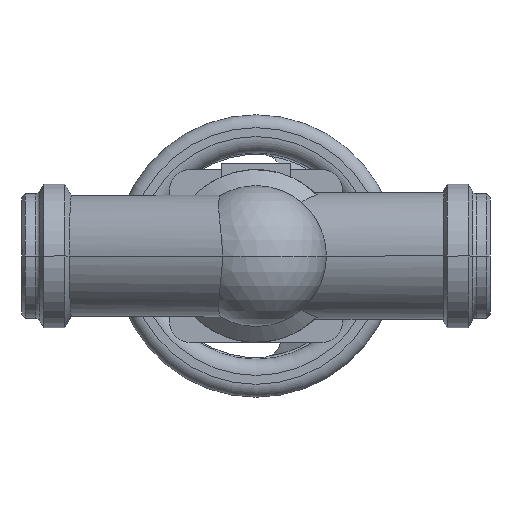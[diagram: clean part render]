
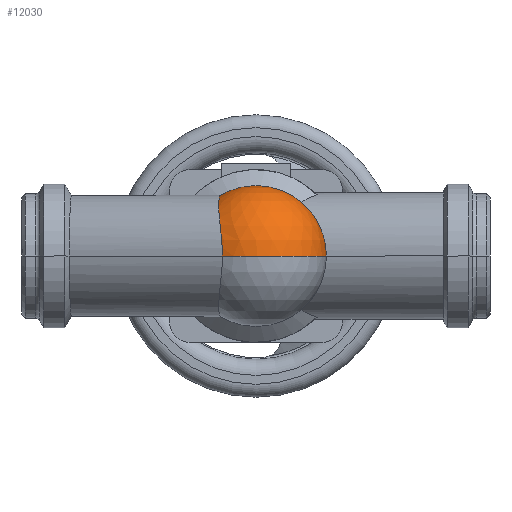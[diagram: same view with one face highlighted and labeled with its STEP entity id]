
A CAD part, front view. The second image highlights one B-rep face of the part: STEP entity #12030.
In plain terms, the highlighted spherical face has radius 43.5 mm.
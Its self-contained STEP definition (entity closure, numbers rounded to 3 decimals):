
#100=CARTESIAN_POINT('',(124.212,-74.211,
0.));
#110=VERTEX_POINT('',#100);
#1720=CARTESIAN_POINT('',(122.912,-36.,37.475));
#1730=VERTEX_POINT('',#1720);
#1760=CARTESIAN_POINT('',(122.912,-36.,-37.475));
#1770=CARTESIAN_POINT('',(122.862,-36.558,
-37.446));
#1780=CARTESIAN_POINT('',(122.814,-37.12,
-37.404));
#1790=CARTESIAN_POINT('',(122.66,-38.954,
-37.23));
#1800=CARTESIAN_POINT('',(122.56,-40.235,
-37.047));
#1810=CARTESIAN_POINT('',(122.379,-42.792,
-36.553));
#1820=CARTESIAN_POINT('',(122.298,-44.069,
-36.242));
#1830=CARTESIAN_POINT('',(122.159,-46.597,
-35.496));
#1840=CARTESIAN_POINT('',(122.1,-47.848,
-35.06));
#1850=CARTESIAN_POINT('',(122.008,-50.302,
-34.07));
#1860=CARTESIAN_POINT('',(121.974,-51.507,
-33.516));
#1870=CARTESIAN_POINT('',(121.934,-53.851,
-32.3));
#1880=CARTESIAN_POINT('',(121.927,-54.99,
-31.638));
#1890=CARTESIAN_POINT('',(121.94,-57.186,
-30.221));
#1900=CARTESIAN_POINT('',(121.96,-58.243,
-29.467));
#1910=CARTESIAN_POINT('',(122.025,-60.259,
-27.884));
#1920=CARTESIAN_POINT('',(122.07,-61.218,
-27.056));
#1930=CARTESIAN_POINT('',(122.18,-62.991,
-25.385));
#1940=CARTESIAN_POINT('',(122.245,-63.839,
-24.515));
#1950=CARTESIAN_POINT('',(122.399,-65.471,
-22.681));
#1960=CARTESIAN_POINT('',(122.488,-66.255,
-21.718));
#1970=CARTESIAN_POINT('',(122.684,-67.738,
-19.71));
#1980=CARTESIAN_POINT('',(122.792,-68.438,
-18.666));
#1990=CARTESIAN_POINT('',(123.02,-69.735,
-16.513));
#2000=CARTESIAN_POINT('',(123.14,-70.332,
-15.403));
#2010=CARTESIAN_POINT('',(123.38,-71.41,
-13.135));
#2020=CARTESIAN_POINT('',(123.501,-71.891,
-11.975));
#2030=CARTESIAN_POINT('',(123.728,-72.725,
-9.622));
#2040=CARTESIAN_POINT('',(123.834,-73.077,
-8.429));
#2050=CARTESIAN_POINT('',(124.014,-73.644,
-6.026));
#2060=CARTESIAN_POINT('',(124.087,-73.857,
-4.816));
#2070=CARTESIAN_POINT('',(124.186,-74.141,
-2.4));
#2080=CARTESIAN_POINT('',(124.212,-74.211,
-1.194));
#2090=CARTESIAN_POINT('',(124.212,-74.211,
0.));
#2100=CARTESIAN_POINT('',(124.212,-74.211,
1.194));
#2110=CARTESIAN_POINT('',(124.186,-74.141,
2.4));
#2120=CARTESIAN_POINT('',(124.087,-73.857,
4.816));
#2130=CARTESIAN_POINT('',(124.014,-73.644,
6.026));
#2140=CARTESIAN_POINT('',(123.834,-73.077,
8.429));
#2150=CARTESIAN_POINT('',(123.728,-72.725,
9.622));
#2160=CARTESIAN_POINT('',(123.501,-71.891,
11.975));
#2170=CARTESIAN_POINT('',(123.38,-71.41,
13.135));
#2180=CARTESIAN_POINT('',(123.14,-70.332,
15.403));
#2190=CARTESIAN_POINT('',(123.02,-69.735,
16.513));
#2200=CARTESIAN_POINT('',(122.792,-68.438,
18.666));
#2210=CARTESIAN_POINT('',(122.684,-67.738,
19.71));
#2220=CARTESIAN_POINT('',(122.488,-66.255,
21.718));
#2230=CARTESIAN_POINT('',(122.399,-65.471,
22.681));
#2240=CARTESIAN_POINT('',(122.245,-63.839,
24.515));
#2250=CARTESIAN_POINT('',(122.18,-62.991,
25.385));
#2260=CARTESIAN_POINT('',(122.07,-61.218,
27.056));
#2270=CARTESIAN_POINT('',(122.025,-60.259,
27.884));
#2280=CARTESIAN_POINT('',(121.96,-58.243,
29.467));
#2290=CARTESIAN_POINT('',(121.94,-57.186,
30.221));
#2300=CARTESIAN_POINT('',(121.927,-54.99,
31.638));
#2310=CARTESIAN_POINT('',(121.934,-53.851,
32.3));
#2320=CARTESIAN_POINT('',(121.974,-51.507,
33.516));
#2330=CARTESIAN_POINT('',(122.008,-50.302,
34.07));
#2340=CARTESIAN_POINT('',(122.1,-47.848,
35.06));
#2350=CARTESIAN_POINT('',(122.159,-46.597,
35.496));
#2360=CARTESIAN_POINT('',(122.298,-44.069,
36.242));
#2370=CARTESIAN_POINT('',(122.379,-42.792,
36.553));
#2380=CARTESIAN_POINT('',(122.56,-40.235,
37.047));
#2390=CARTESIAN_POINT('',(122.66,-38.954,
37.23));
#2400=CARTESIAN_POINT('',(122.814,-37.12,
37.404));
#2410=CARTESIAN_POINT('',(122.862,-36.558,
37.446));
#2420=CARTESIAN_POINT('',(122.912,-36.,37.475));
#2430=B_SPLINE_CURVE_WITH_KNOTS('',3,(#1760,#1770,#1780,#1790,#1800,
#1810,#1820,#1830,#1840,#1850,#1860,#1870,#1880,#1890,#1900,#1910,#1920,
#1930,#1940,#1950,#1960,#1970,#1980,#1990,#2000,#2010,#2020,#2030,#2040,
#2050,#2060,#2070,#2080,#2090,#2100,#2110,#2120,#2130,#2140,#2150,#2160,
#2170,#2180,#2190,#2200,#2210,#2220,#2230,#2240,#2250,#2260,#2270,#2280,
#2290,#2300,#2310,#2320,#2330,#2340,#2350,#2360,#2370,#2380,#2390,#2400,
#2410,#2420),.UNSPECIFIED.,.F.,.F.,(4,2,2,2,2,2,2,2,2,2,2,2,2,2,2,2,3,2,
2,2,2,2,2,2,2,2,2,2,2,2,2,2,4),(175.083,176.738,
180.472,184.207,187.941,191.676,
195.41,199.145,202.879,206.461,
210.042,213.624,217.206,220.788,
224.369,227.951,231.533,235.114,
238.696,242.278,245.86,249.441,
253.023,256.605,260.186,263.921,
267.655,271.39,275.124,278.859,
282.593,286.328,287.983),.UNSPECIFIED.);
#2440=EDGE_CURVE('',#110,#1730,#2430,.T.);
#6980=CARTESIAN_POINT('',(188.5,-36.,0.));
#6990=VERTEX_POINT('',#6980);
#11770=CARTESIAN_POINT('',(145.,-36.,0.));
#11780=DIRECTION('',(0.,0.,1.));
#11790=DIRECTION('',(1.,0.,0.));
#11800=AXIS2_PLACEMENT_3D('',#11770,#11780,#11790);
#11810=SPHERICAL_SURFACE('',#11800,43.5);
#11820=CARTESIAN_POINT('',(145.,-36.,0.));
#11830=DIRECTION('',(-0.,1.,0.));
#11840=DIRECTION('',(1.,0.,-0.));
#11850=AXIS2_PLACEMENT_3D('',#11820,#11830,#11840);
#11860=CIRCLE('',#11850,43.5);
#11870=CARTESIAN_POINT('',(145.,-36.,43.5));
#11880=VERTEX_POINT('',#11870);
#11890=EDGE_CURVE('',#1730,#11880,#11860,.T.);
#11900=ORIENTED_EDGE('',*,*,#11890,.F.);
#11910=EDGE_CURVE('',#11880,#6990,#11860,.T.);
#11920=ORIENTED_EDGE('',*,*,#11910,.F.);
#11930=CARTESIAN_POINT('',(145.,-36.,0.));
#11940=DIRECTION('',(0.,0.,1.));
#11950=DIRECTION('',(-1.,0.,0.));
#11960=AXIS2_PLACEMENT_3D('',#11930,#11940,#11950);
#11970=CIRCLE('',#11960,43.5);
#11980=EDGE_CURVE('',#110,#6990,#11970,.T.);
#11990=ORIENTED_EDGE('',*,*,#11980,.T.);
#12000=ORIENTED_EDGE('',*,*,#2440,.F.);
#12010=EDGE_LOOP('',(#12000,#11990,#11920,#11900));
#12020=FACE_OUTER_BOUND('',#12010,.T.);
#12030=ADVANCED_FACE('',(#12020),#11810,.T.);
